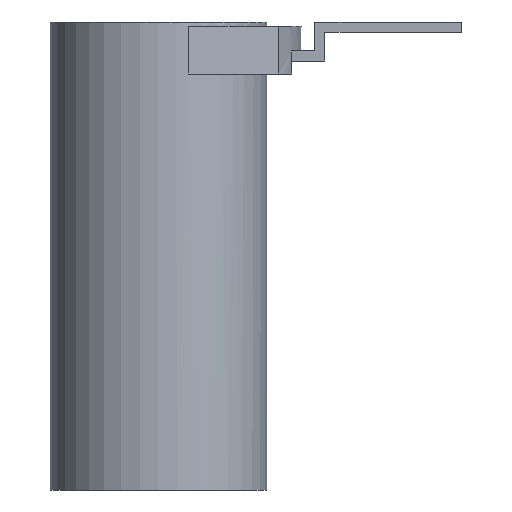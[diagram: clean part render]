
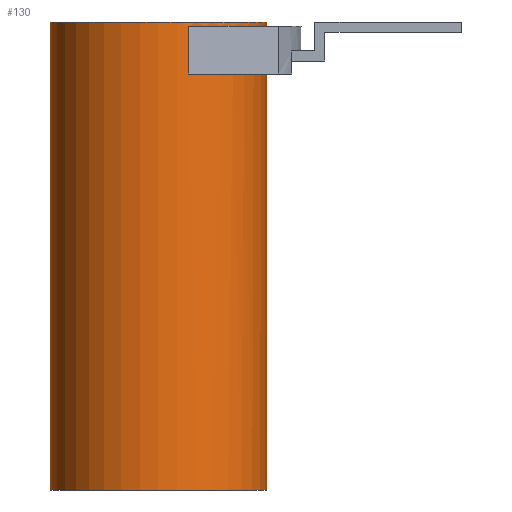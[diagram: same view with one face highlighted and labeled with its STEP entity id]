
A CAD part, front view. The second image highlights one B-rep face of the part: STEP entity #130.
In plain terms, the highlighted cylindrical face has radius 12.5 mm (diameter 25 mm), a partial arc.
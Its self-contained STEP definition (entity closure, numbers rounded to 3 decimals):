
#113=CYLINDRICAL_SURFACE('',#705,12.5);
#130=ADVANCED_FACE('',(#183),#113,.T.);
#183=FACE_OUTER_BOUND('',#210,.T.);
#210=EDGE_LOOP('',(#317,#318,#319,#320,#321,#322,#323,#324,#325,#326));
#240=CIRCLE('',#685,12.5);
#241=CIRCLE('',#688,12.5);
#246=CIRCLE('',#698,12.5);
#249=CIRCLE('',#703,12.5);
#250=CIRCLE('',#704,12.5);
#317=ORIENTED_EDGE('',*,*,#512,.F.);
#318=ORIENTED_EDGE('',*,*,#517,.F.);
#319=ORIENTED_EDGE('',*,*,#518,.T.);
#320=ORIENTED_EDGE('',*,*,#515,.T.);
#321=ORIENTED_EDGE('',*,*,#519,.F.);
#322=ORIENTED_EDGE('',*,*,#513,.F.);
#323=ORIENTED_EDGE('',*,*,#498,.F.);
#324=ORIENTED_EDGE('',*,*,#495,.F.);
#325=ORIENTED_EDGE('',*,*,#494,.F.);
#326=ORIENTED_EDGE('',*,*,#508,.F.);
#436=VERTEX_POINT('',#930);
#438=VERTEX_POINT('',#934);
#439=VERTEX_POINT('',#938);
#441=VERTEX_POINT('',#944);
#446=VERTEX_POINT('',#961);
#448=VERTEX_POINT('',#969);
#449=VERTEX_POINT('',#973);
#450=VERTEX_POINT('',#975);
#451=VERTEX_POINT('',#977);
#452=VERTEX_POINT('',#979);
#494=EDGE_CURVE('',#438,#436,#240,.T.);
#495=EDGE_CURVE('',#436,#439,#574,.T.);
#498=EDGE_CURVE('',#439,#441,#241,.T.);
#508=EDGE_CURVE('',#446,#438,#584,.T.);
#512=EDGE_CURVE('',#448,#446,#246,.T.);
#513=EDGE_CURVE('',#441,#449,#586,.T.);
#515=EDGE_CURVE('',#451,#450,#587,.T.);
#517=EDGE_CURVE('',#452,#448,#588,.T.);
#518=EDGE_CURVE('',#452,#451,#249,.T.);
#519=EDGE_CURVE('',#449,#450,#250,.T.);
#574=LINE('',#937,#629);
#584=LINE('',#963,#639);
#586=LINE('',#972,#641);
#587=LINE('',#976,#642);
#588=LINE('',#980,#643);
#629=VECTOR('',#759,1.);
#639=VECTOR('',#783,1.);
#641=VECTOR('',#797,1.);
#642=VECTOR('',#800,1.);
#643=VECTOR('',#803,1.);
#685=AXIS2_PLACEMENT_3D('',#935,#755,#756);
#688=AXIS2_PLACEMENT_3D('',#943,#764,#765);
#698=AXIS2_PLACEMENT_3D('',#970,#793,#794);
#703=AXIS2_PLACEMENT_3D('',#982,#806,#807);
#704=AXIS2_PLACEMENT_3D('',#983,#808,#809);
#705=AXIS2_PLACEMENT_3D('',#984,#810,#811);
#755=DIRECTION('',(0.,0.,1.));
#756=DIRECTION('',(-1.,0.,0.));
#759=DIRECTION('',(0.,0.,1.));
#764=DIRECTION('',(0.,0.,1.));
#765=DIRECTION('',(0.565,-0.825,0.));
#783=DIRECTION('',(0.,0.,-1.));
#793=DIRECTION('',(0.,0.,-1.));
#794=DIRECTION('',(-1.,0.,0.));
#797=DIRECTION('',(0.,0.,-1.));
#800=DIRECTION('',(0.,0.,-1.));
#803=DIRECTION('',(0.,0.,-1.));
#806=DIRECTION('',(0.,0.,-1.));
#807=DIRECTION('',(0.,1.,0.));
#808=DIRECTION('',(0.,0.,-1.));
#809=DIRECTION('',(0.,1.,0.));
#810=DIRECTION('',(0.,0.,-1.));
#811=DIRECTION('',(0.,-1.,0.));
#930=CARTESIAN_POINT('',(10.966,-6.,48.));
#934=CARTESIAN_POINT('',(3.486,-12.004,48.));
#935=CARTESIAN_POINT('',(0.,0.,48.));
#937=CARTESIAN_POINT('',(10.966,-6.,47.98));
#938=CARTESIAN_POINT('',(10.966,-6.,50.5));
#943=CARTESIAN_POINT('',(0.,0.,50.5));
#944=CARTESIAN_POINT('',(12.5,0.,50.5));
#961=CARTESIAN_POINT('',(3.486,-12.004,53.5));
#963=CARTESIAN_POINT('',(3.486,-12.004,54.02));
#969=CARTESIAN_POINT('',(12.5,0.,53.5));
#970=CARTESIAN_POINT('',(0.,0.,53.5));
#972=CARTESIAN_POINT('',(12.5,0.,0.));
#973=CARTESIAN_POINT('',(12.5,0.,0.));
#975=CARTESIAN_POINT('',(-12.5,0.,0.));
#976=CARTESIAN_POINT('',(-12.5,0.,0.));
#977=CARTESIAN_POINT('',(-12.5,0.,54.));
#979=CARTESIAN_POINT('',(12.5,0.,54.));
#980=CARTESIAN_POINT('',(12.5,0.,0.));
#982=CARTESIAN_POINT('',(0.,0.,54.));
#983=CARTESIAN_POINT('',(0.,0.,0.));
#984=CARTESIAN_POINT('',(0.,0.,54.));
